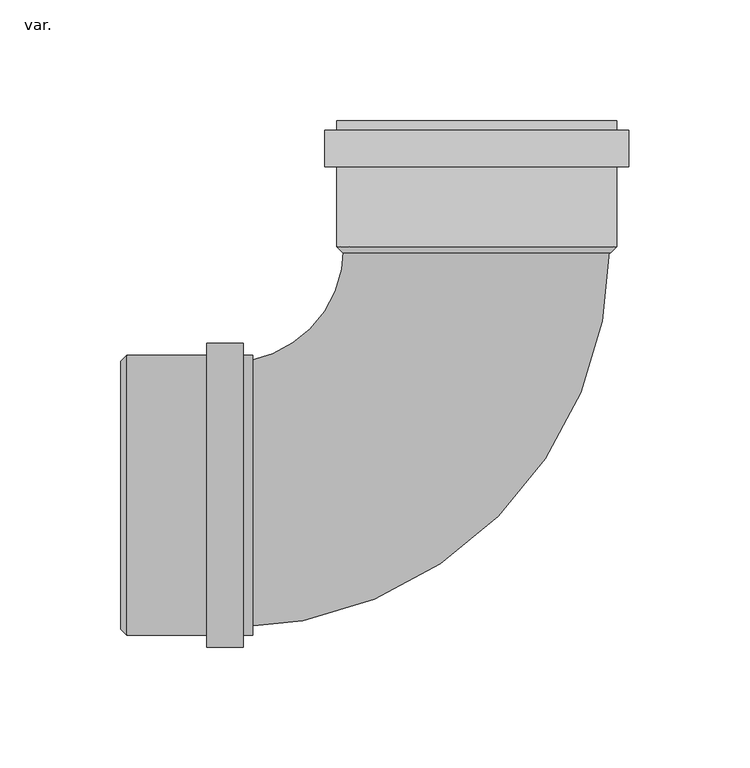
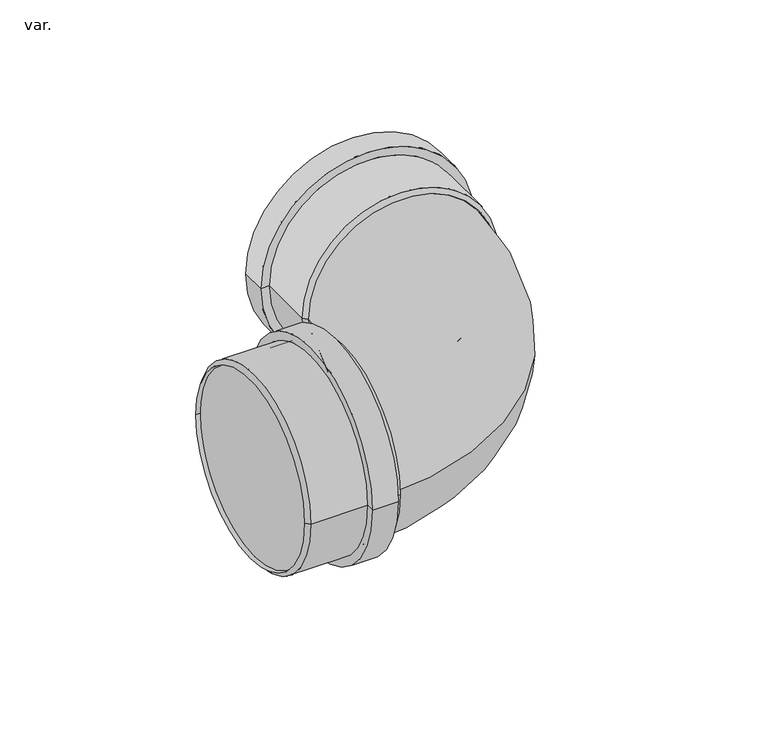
"""IFC4 building model written with IfcOpenShell, lengths in millimetres: pipe fitting geometry, AmancoWavin_Unionesdetubería_SilentiumCurva : var.."""

from ifc_helpers import new_model, si_unit, point, frame, frame_2d, origin, origin_2d, place, context, project, spatial, polyline, circle_curve, ellipse_curve, trimmed, segment, composite_curve, outline, extrude, source, transform, mapped, element, save
from ifc_brep_helpers import plane_surface, cylinder_surface, revolved_surface, advanced_brep


def var_bdfa5fbf(model_context):
    return source(origin(), model_context, "Body", "SolidModel", [
        advanced_brep(
        [(-6.3453589, 151.0, 0.0), (-132.1453589, 151.0, 0.0), (-127.1453589, 151.0, 0.0), (-11.3453589, 151.0, 0.0), (-6.3453589, 136.0, 0.0), (-132.1453589, 136.0, 0.0), (-11.3453589, 136.0, 0.0), (-127.1453589, 136.0, 0.0), (-11.3453589, 102.8, 0.0), (-127.1453589, 102.8, 0.0), (-13.7453589, 100.4, 0.0), (-124.7453589, 100.4, 0.0), (-13.7453589, 155.0, 0.0), (-124.7453589, 155.0, 0.0), (-11.3453589, 155.0, 0.0), (-127.1453589, 155.0, 0.0)],
        [
            (0, 1, circle_curve(frame((-69.2453589, 151.0, 0.0), z_axis=(0.0, 1.0, 0.0), x_axis=(-1.0, 0.0, 0.0)), 62.9)),
            (1, 2),
            (2, 3, circle_curve(frame((-69.2453589, 151.0, 0.0), z_axis=(0.0, -1.0, 0.0), x_axis=(-1.0, 0.0, 0.0)), 57.9)),
            (3, 0),
            (1, 0, circle_curve(frame((-69.2453589, 151.0, 0.0), z_axis=(0.0, 1.0, 0.0), x_axis=(-1.0, 0.0, 0.0)), 62.9)),
            (3, 2, circle_curve(frame((-69.2453589, 151.0, 0.0), z_axis=(0.0, -1.0, 0.0), x_axis=(-1.0, 0.0, 0.0)), 57.9)),
            (4, 5, circle_curve(frame((-69.2453589, 136.0, 0.0), z_axis=(0.0, 1.0, 0.0), x_axis=(-1.0, 0.0, 0.0)), 62.9)),
            (5, 1),
            (0, 4),
            (5, 4, circle_curve(frame((-69.2453589, 136.0, 0.0), z_axis=(0.0, 1.0, 0.0), x_axis=(-1.0, 0.0, 0.0)), 62.9)),
            (6, 7, circle_curve(frame((-69.2453589, 136.0, 0.0), z_axis=(0.0, 1.0, 0.0), x_axis=(-1.0, 0.0, 0.0)), 57.9)),
            (7, 5),
            (4, 6),
            (7, 6, circle_curve(frame((-69.2453589, 136.0, 0.0), z_axis=(0.0, 1.0, 0.0), x_axis=(-1.0, 0.0, 0.0)), 57.9)),
            (8, 9, circle_curve(frame((-69.2453589, 102.8, 0.0), z_axis=(0.0, 1.0, 0.0), x_axis=(-1.0, 0.0, 0.0)), 57.9)),
            (9, 7),
            (6, 8),
            (9, 8, circle_curve(frame((-69.2453589, 102.8, 0.0), z_axis=(0.0, 1.0, 0.0), x_axis=(-1.0, 0.0, 0.0)), 57.9)),
            (10, 11, circle_curve(frame((-69.2453589, 100.4, 0.0), z_axis=(0.0, 1.0, 0.0), x_axis=(-1.0, 0.0, 0.0)), 55.5)),
            (11, 9),
            (8, 10),
            (11, 10, circle_curve(frame((-69.2453589, 100.4, 0.0), z_axis=(0.0, 1.0, 0.0), x_axis=(-1.0, 0.0, 0.0)), 55.5)),
            (12, 13, circle_curve(frame((-69.2453589, 155.0, 0.0), z_axis=(0.0, 1.0, 0.0), x_axis=(-1.0, 0.0, 0.0)), 55.5)),
            (13, 11),
            (10, 12),
            (13, 12, circle_curve(frame((-69.2453589, 155.0, 0.0), z_axis=(0.0, 1.0, 0.0), x_axis=(-1.0, 0.0, 0.0)), 55.5)),
            (14, 15, circle_curve(frame((-69.2453589, 155.0, 0.0), z_axis=(0.0, 1.0, 0.0), x_axis=(-1.0, 0.0, 0.0)), 57.9)),
            (15, 13),
            (12, 14),
            (15, 14, circle_curve(frame((-69.2453589, 155.0, 0.0), z_axis=(0.0, 1.0, 0.0), x_axis=(-1.0, 0.0, 0.0)), 57.9)),
            (2, 15),
            (14, 3),
        ],
        [
            plane_surface(frame((-69.2453589, 151.0, 0.0), z_axis=(0.0, 1.0, 0.0), x_axis=(-1.0, 0.0, 0.0))),
            cylinder_surface(frame((-69.2453589, 2111.25, 0.0), z_axis=(0.0, -1.0, 0.0), x_axis=(-1.0, 0.0, 0.0)), 62.9),
            plane_surface(frame((-69.2453589, 136.0, 0.0), z_axis=(0.0, -1.0, 0.0), x_axis=(-1.0, 0.0, 0.0))),
            cylinder_surface(frame((-69.2453589, 2111.25, 0.0), z_axis=(0.0, -1.0, 0.0), x_axis=(-1.0, 0.0, 0.0)), 57.9),
            revolved_surface(polyline([(-127.1453589, 102.8, 0.0), (-124.7453589, 100.4, 0.0)]), (-69.2453589, 2111.25, 0.0), (0.0, -1.0, 0.0)),
            revolved_surface(polyline([(-124.7453589, 100.40000000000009, 0.0), (-124.7453589, 155.0, 0.0)]), (-69.2453589, 2111.25, 0.0), (0.0, -1.0, 0.0)),
            plane_surface(frame((-69.2453589, 155.0, 0.0), z_axis=(0.0, 1.0, 0.0), x_axis=(-1.0, 0.0, 0.0))),
        ],
        [
            (0, [[1, 2, 3, 4]]),
            (0, [[5, -4, 6, -2]]),
            (1, [[7, 8, -1, 9]]),
            (1, [[10, -9, -5, -8]]),
            (2, [[11, 12, -7, 13]]),
            (2, [[14, -13, -10, -12]]),
            (3, [[15, 16, -11, 17]]),
            (3, [[18, -17, -14, -16]]),
            (4, [[19, 20, -15, 21]]),
            (4, [[22, -21, -18, -20]]),
            (5, [[23, 24, -19, 25]]),
            (5, [[26, -25, -22, -24]]),
            (6, [[27, 28, -23, 29]]),
            (6, [[30, -29, -26, -28]]),
            (3, [[-3, 31, -27, 32]]),
            (3, [[-6, -32, -30, -31]]),
        ],
    ),
        advanced_brep(
        [(-166.0453589, -62.9, 0.0), (-166.0453589, 62.9, 0.0), (-166.0453589, 57.9, 0.0), (-166.0453589, -57.9, 0.0), (-181.0453589, -62.9, 0.0), (-181.0453589, 62.9, 0.0), (-181.0453589, -57.9, 0.0), (-181.0453589, 57.9, 0.0), (-214.2453589, -57.9, 0.0), (-214.2453589, 57.9, 0.0), (-216.6453589, -55.5, 0.0), (-216.6453589, 55.5, 0.0), (-162.0453589, -55.5, 0.0), (-162.0453589, 55.5, 0.0), (-162.0453589, -57.9, 0.0), (-162.0453589, 57.9, 0.0)],
        [
            (0, 1, circle_curve(frame((-166.0453589, 0.0, 0.0), z_axis=(1.0, 0.0, 0.0), x_axis=(0.0, 1.0, 0.0)), 62.9)),
            (1, 2),
            (2, 3, circle_curve(frame((-166.0453589, 0.0, 0.0), z_axis=(-1.0, 0.0, 0.0), x_axis=(0.0, 1.0, 0.0)), 57.9)),
            (3, 0),
            (1, 0, circle_curve(frame((-166.0453589, 0.0, 0.0), z_axis=(1.0, 0.0, 0.0), x_axis=(0.0, 1.0, 0.0)), 62.9)),
            (3, 2, circle_curve(frame((-166.0453589, 0.0, 0.0), z_axis=(-1.0, 0.0, 0.0), x_axis=(0.0, 1.0, 0.0)), 57.9)),
            (4, 5, circle_curve(frame((-181.0453589, 0.0, 0.0), z_axis=(1.0, 0.0, 0.0), x_axis=(0.0, 1.0, 0.0)), 62.9)),
            (5, 1),
            (0, 4),
            (5, 4, circle_curve(frame((-181.0453589, 0.0, 0.0), z_axis=(1.0, 0.0, 0.0), x_axis=(0.0, 1.0, 0.0)), 62.9)),
            (6, 7, circle_curve(frame((-181.0453589, 0.0, 0.0), z_axis=(1.0, 0.0, 0.0), x_axis=(0.0, 1.0, 0.0)), 57.9)),
            (7, 5),
            (4, 6),
            (7, 6, circle_curve(frame((-181.0453589, 0.0, 0.0), z_axis=(1.0, 0.0, 0.0), x_axis=(0.0, 1.0, 0.0)), 57.9)),
            (8, 9, circle_curve(frame((-214.2453589, 0.0, 0.0), z_axis=(1.0, 0.0, 0.0), x_axis=(0.0, 1.0, 0.0)), 57.9)),
            (9, 7),
            (6, 8),
            (9, 8, circle_curve(frame((-214.2453589, 0.0, 0.0), z_axis=(1.0, 0.0, 0.0), x_axis=(0.0, 1.0, 0.0)), 57.9)),
            (10, 11, circle_curve(frame((-216.6453589, 0.0, 0.0), z_axis=(1.0, 0.0, 0.0), x_axis=(0.0, 1.0, 0.0)), 55.5)),
            (11, 9),
            (8, 10),
            (11, 10, circle_curve(frame((-216.6453589, 0.0, 0.0), z_axis=(1.0, 0.0, 0.0), x_axis=(0.0, 1.0, 0.0)), 55.5)),
            (12, 13, circle_curve(frame((-162.0453589, 0.0, 0.0), z_axis=(1.0, 0.0, 0.0), x_axis=(0.0, 1.0, 0.0)), 55.5)),
            (13, 11),
            (10, 12),
            (13, 12, circle_curve(frame((-162.0453589, 0.0, 0.0), z_axis=(1.0, 0.0, 0.0), x_axis=(0.0, 1.0, 0.0)), 55.5)),
            (14, 15, circle_curve(frame((-162.0453589, 0.0, 0.0), z_axis=(1.0, 0.0, 0.0), x_axis=(0.0, 1.0, 0.0)), 57.9)),
            (15, 13),
            (12, 14),
            (15, 14, circle_curve(frame((-162.0453589, 0.0, 0.0), z_axis=(1.0, 0.0, 0.0), x_axis=(0.0, 1.0, 0.0)), 57.9)),
            (2, 15),
            (14, 3),
        ],
        [
            plane_surface(frame((-166.0453589, 0.0, 0.0), z_axis=(1.0, 0.0, 0.0), x_axis=(0.0, 1.0, 0.0))),
            cylinder_surface(frame((1794.2046411, 0.0, 0.0), z_axis=(-1.0, 0.0, 0.0), x_axis=(0.0, 1.0, 0.0)), 62.9),
            plane_surface(frame((-181.0453589, 0.0, 0.0), z_axis=(-1.0, 0.0, 0.0), x_axis=(0.0, 1.0, 0.0))),
            cylinder_surface(frame((1794.2046411, 0.0, 0.0), z_axis=(-1.0, 0.0, 0.0), x_axis=(0.0, 1.0, 0.0)), 57.9),
            revolved_surface(polyline([(-214.2453589, 57.9, 0.0), (-216.6453589, 55.5, 0.0)]), (1794.2046411, 0.0, 0.0), (-1.0, 0.0, 0.0)),
            revolved_surface(polyline([(-216.64535890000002, 55.5, 0.0), (-162.0453589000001, 55.5, 0.0)]), (1794.2046411, 0.0, 0.0), (-1.0, 0.0, 0.0)),
            plane_surface(frame((-162.0453589, 0.0, 0.0), z_axis=(1.0, 0.0, 0.0), x_axis=(0.0, 1.0, 0.0))),
        ],
        [
            (0, [[1, 2, 3, 4]]),
            (0, [[5, -4, 6, -2]]),
            (1, [[7, 8, -1, 9]]),
            (1, [[10, -9, -5, -8]]),
            (2, [[11, 12, -7, 13]]),
            (2, [[14, -13, -10, -12]]),
            (3, [[15, 16, -11, 17]]),
            (3, [[18, -17, -14, -16]]),
            (4, [[19, 20, -15, 21]]),
            (4, [[22, -21, -18, -20]]),
            (5, [[23, 24, -19, 25]]),
            (5, [[26, -25, -22, -24]]),
            (6, [[27, 28, -23, 29]]),
            (6, [[30, -29, -26, -28]]),
            (3, [[-3, 31, -27, 32]]),
            (3, [[-6, -32, -30, -31]]),
        ],
    ),
        extrude(outline(composite_curve([segment(trimmed(circle_curve(origin_2d(), 55.0), [point((0.0, -55.0))], [point((0.0, 55.0))], False, "CARTESIAN"), True, "CONTINUOUS"), segment(trimmed(circle_curve(origin_2d(), 55.0), [point((0.0, 55.0))], [point((0.0, -55.0))], False, "CARTESIAN"), True, "CONTINUOUS")], self_intersect=False)), frame((-214.2453589, 0.0, 0.0), z_axis=(1.0, 0.0, 0.0), x_axis=(0.0, 1.0, 0.0)), (0.0, 0.0, 1.0), 42.2),
        extrude(outline(composite_curve([segment(trimmed(circle_curve(frame_2d((0.0, -69.2453589)), 55.0), [point((-55.0, -69.2453589))], [point((55.0, -69.2453589))], False, "CARTESIAN"), True, "CONTINUOUS"), segment(trimmed(circle_curve(frame_2d((0.0, -69.2453589)), 55.0), [point((55.0, -69.2453589))], [point((-55.0, -69.2453589))], False, "CARTESIAN"), True, "CONTINUOUS")], self_intersect=False)), frame((0.0, 101.8, 0.0), z_axis=(0.0, 1.0, 0.0), x_axis=(0.0, 0.0, 1.0)), (0.0, 0.0, 1.0), 1.0),
        advanced_brep(
        [(-172.0453589, -55.0, 0.0), (-172.0453589, 55.0, 0.0), (-14.2453589, 102.8, 0.0), (-124.2453589, 102.8, 0.0)],
        [
            (0, 1, circle_curve(frame((-172.0453589, 0.0, 0.0), z_axis=(-1.0, 0.0, 0.0), x_axis=(0.0, 1.0, 0.0)), 55.0)),
            (1, 0, circle_curve(frame((-172.0453589, 0.0, 0.0), z_axis=(-1.0, 0.0, 0.0), x_axis=(0.0, 1.0, 0.0)), 55.0)),
            (2, 3, circle_curve(frame((-69.2453589, 102.8, 0.0), z_axis=(0.0, 1.0, 0.0), x_axis=(-1.0, 0.0, 0.0)), 55.0)),
            (3, 2, circle_curve(frame((-69.2453589, 102.8, 0.0), z_axis=(0.0, 1.0, 0.0), x_axis=(-1.0, 0.0, 0.0)), 55.0)),
            (3, 1, circle_curve(frame((-172.0453589, 102.8, 0.0), z_axis=(0.0, 0.0, -1.0), x_axis=(0.0, -1.0, 0.0)), 47.8)),
            (0, 2, circle_curve(frame((-172.0453589, 102.8, 0.0), z_axis=(0.0, 0.0, 1.0), x_axis=(0.0, -1.0, 0.0)), 157.8)),
        ],
        [
            plane_surface(frame((-172.0453589, 0.0, 0.0), z_axis=(-1.0, 0.0, 0.0), x_axis=(0.0, 0.0, 1.0))),
            plane_surface(frame((-69.2453589, 102.8, 0.0), z_axis=(0.0, 1.0, 0.0), x_axis=(0.0, 0.0, 1.0))),
            revolved_surface(trimmed(ellipse_curve(frame((-172.0453589, 0.0, 0.0), z_axis=(-1.0, 0.0, 0.0), x_axis=(0.0, 1.0, 0.0)), 55.0, 55.0), [point((-172.0453589, -55.0, 0.0))], [point((-172.0453589, 55.0, 0.0))], True, "CARTESIAN"), (-172.0453589, 102.8, 0.0), (0.0, 0.0, 1.0)),
            revolved_surface(trimmed(ellipse_curve(frame((-172.0453589, 0.0, 0.0), z_axis=(-1.0, 0.0, 0.0), x_axis=(0.0, 1.0, 0.0)), 55.0, 55.0), [point((-172.0453589, 55.0, 0.0))], [point((-172.0453589, -55.0, 0.0))], True, "CARTESIAN"), (-172.0453589, 102.8, 0.0), (0.0, 0.0, 1.0)),
        ],
        [
            (0, [[1, 2]]),
            (1, [[3, 4]]),
            (2, [[5, -1, 6, -4]]),
            (3, [[-6, -2, -5, -3]]),
        ],
    ),
    ])


if __name__ == "__main__":
    model = new_model("IFC4")
    model_context = context("Model", 3, world=origin())
    ifc_project = project(units=[si_unit("LENGTHUNIT", "METRE", prefix="MILLI")], contexts=[model_context])
    site = spatial("IfcSite", under=ifc_project)
    building = spatial("IfcBuilding", under=site)
    placement = place(None, origin())
    var_shape = var_bdfa5fbf(model_context)
    element("IfcPipeFitting", 1, ObjectType="AmancoWavin_Unionesdetubería_SilentiumCurva : var.", at=placement, inside=building, context=model_context, shape_type="MappedRepresentation", body=[
        mapped(var_shape, transform((0.0, 0.0, 0.0), x_axis=(1.0, 0.0, 0.0), y_axis=(0.0, 1.0, 0.0), z_axis=(0.0, 0.0, 1.0))),
    ])
    save(model, "model.ifc")
